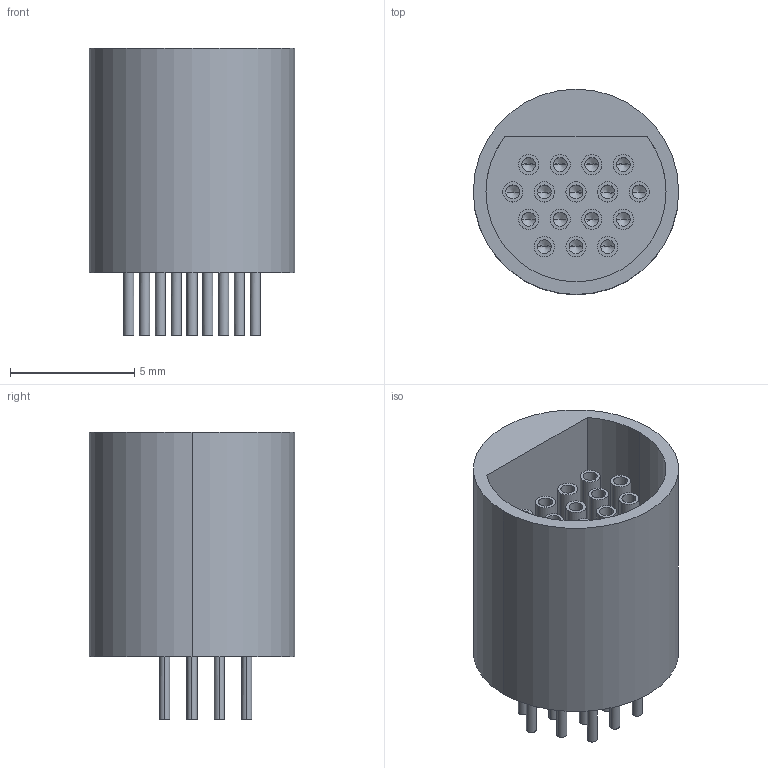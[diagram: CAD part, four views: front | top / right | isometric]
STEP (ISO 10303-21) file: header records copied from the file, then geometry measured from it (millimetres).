
FILE_DESCRIPTION (( 'STEP AP214' ), '1' );
FILE_NAME ('A22037-001 REV B.STEP', '2010-07-26T14:37:36', ( 'IT' ), ( '' ), 'SwSTEP 2.0', 'SolidWorks 2010', '' );
FILE_SCHEMA (( 'AUTOMOTIVE_DESIGN' ));
Length unit declared in the file: inch
Products named in the file (1): A22037-001 REV B
Bounding box: 8.26 x 8.26 x 11.56 mm (x, y, z)
Volume: 315.6 mm3; surface area: 926 mm2
Topology: 1 solids, 17 shells, 366 faces, 870 edges, 556 vertices
Faces by surface type: cylinder 199, plane 134, cone 32, bspline 1
Entity records: 10963 total; most frequent: CARTESIAN_POINT 2305, DIRECTION 1888, ORIENTED_EDGE 1676, EDGE_CURVE 838, AXIS2_PLACEMENT_3D 730, VERTEX_POINT 556, EDGE_LOOP 448, LINE 428
